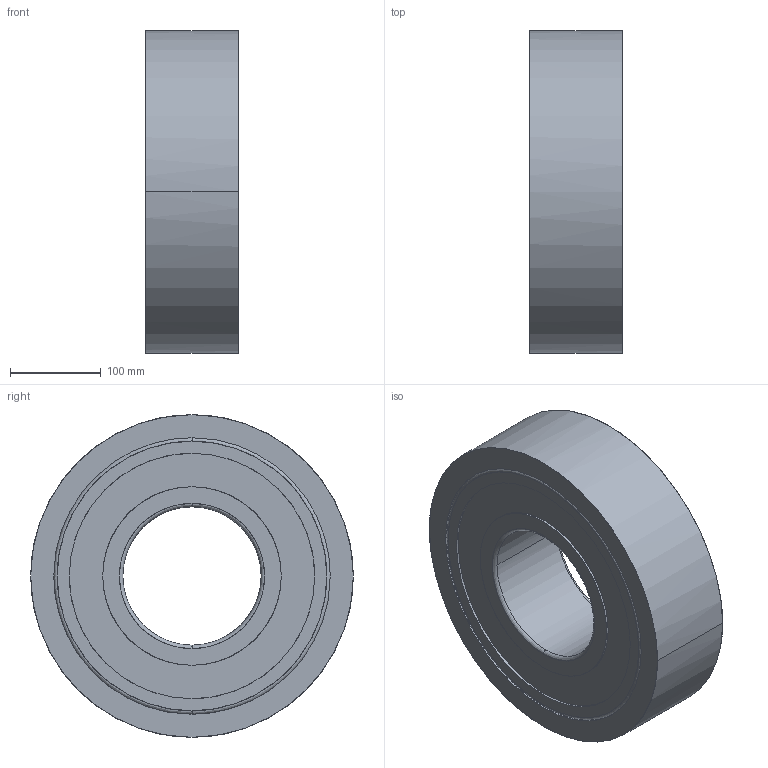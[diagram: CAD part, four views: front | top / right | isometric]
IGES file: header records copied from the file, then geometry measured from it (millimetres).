
Global section: native system: Kubotek KeyCreator; preprocessor: KCM Version 1.1.1442.0; author: KeyCreator User; organization: Self; date: 20170714.085249; units: inch
Bounding box: 101.6 x 355.6 x 355.6 mm (x, y, z)
Surface area: 341750 mm2 (no closed solid volume)
Topology: 0 solids, 0 shells, 32 faces, 208 edges, 208 vertices
Faces by surface type: bspline 32
